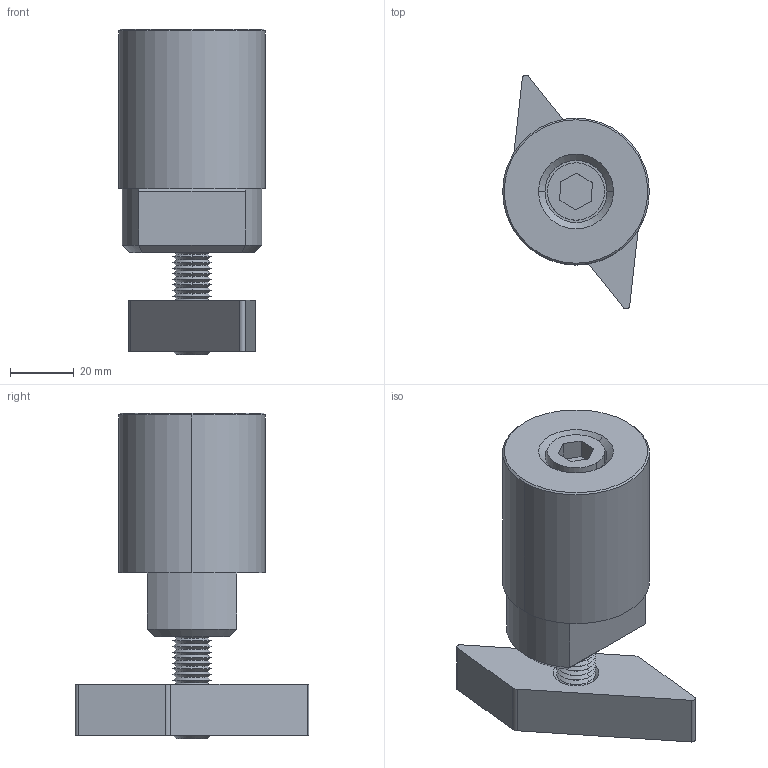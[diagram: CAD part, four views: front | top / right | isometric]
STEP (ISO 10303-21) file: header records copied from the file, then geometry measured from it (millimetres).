
FILE_DESCRIPTION (( 'STEP AP203' ), '1' );
FILE_NAME ('30200.W0228.step', '2017-06-30T11:04:52', ( 'User' ), ( '' ), 'SwSTEP 2.0', 'SolidWorks 2009', '' );
FILE_SCHEMA (( 'CONFIG_CONTROL_DESIGN' ));
Length unit declared in the file: millimetre
Products named in the file (4): 30200.W0228; Part1_30200.W0228; screw_M12x90; Wedge_30200.W0228
Assembly tree (3 placements, depth 2):
  30200.W0228
    screw_M12x90
    Part1_30200.W0228
    Wedge_30200.W0228
Bounding box: 46 x 73.35 x 102 mm (x, y, z)
Volume: 124492 mm3; surface area: 27030.2 mm2
Topology: 3 solids, 3 shells, 156 faces, 329 edges, 183 vertices
Faces by surface type: cone 103, plane 34, cylinder 19
Entity records: 4508 total; most frequent: DIRECTION 790, CARTESIAN_POINT 686, ORIENTED_EDGE 658, EDGE_CURVE 329, AXIS2_PLACEMENT_3D 303, LINE 184, VECTOR 184, VERTEX_POINT 183
